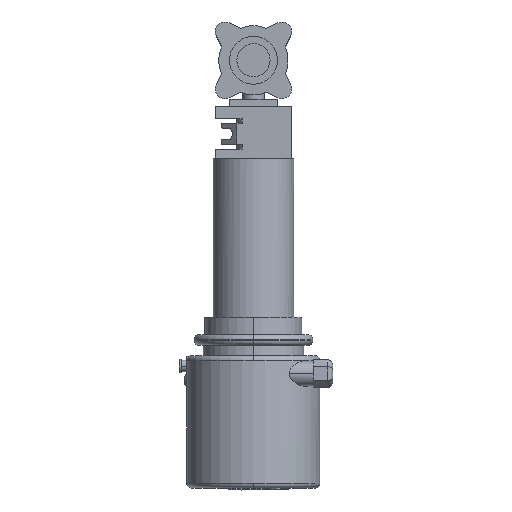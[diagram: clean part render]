
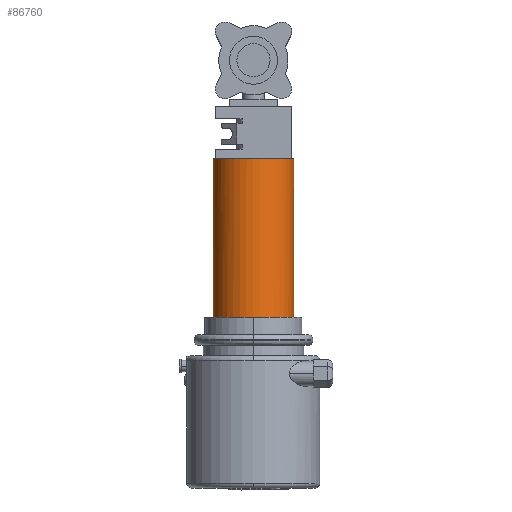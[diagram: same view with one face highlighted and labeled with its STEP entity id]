
A CAD part, top view. The second image highlights one B-rep face of the part: STEP entity #86760.
In plain terms, the highlighted cylindrical face has radius 42.5 mm (diameter 85 mm), a partial arc.
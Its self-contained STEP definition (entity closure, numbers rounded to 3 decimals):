
#100=CARTESIAN_POINT('',(-40.,0.,-14.361));
#110=VERTEX_POINT('',#100);
#160=CARTESIAN_POINT('',(0.,0.,0.));
#170=DIRECTION('',(0.,1.,0.));
#180=DIRECTION('',(-1.,0.,0.));
#190=AXIS2_PLACEMENT_3D('',#160,#170,#180);
#200=CIRCLE('',#190,42.5);
#210=CARTESIAN_POINT('',(-42.5,0.,0.));
#220=VERTEX_POINT('',#210);
#230=EDGE_CURVE('',#110,#220,#200,.T.);
#500=CARTESIAN_POINT('',(0.,167.,0.));
#510=DIRECTION('',(0.,1.,0.));
#520=DIRECTION('',(-1.,0.,0.));
#530=AXIS2_PLACEMENT_3D('',#500,#510,#520);
#540=CIRCLE('',#530,42.5);
#550=CARTESIAN_POINT('',(-42.5,167.,0.));
#560=VERTEX_POINT('',#550);
#570=CARTESIAN_POINT('',(42.5,167.,0.));
#580=VERTEX_POINT('',#570);
#610=EDGE_CURVE('',#580,#560,#540,.T.);
#710=CARTESIAN_POINT('',(-42.5,83.5,0.));
#720=DIRECTION('',(0.,-1.,0.));
#730=VECTOR('',#720,1.);
#740=LINE('',#710,#730);
#750=EDGE_CURVE('',#560,#220,#740,.T.);
#780=CARTESIAN_POINT('',(42.5,83.5,0.));
#790=DIRECTION('',(0.,-1.,0.));
#800=VECTOR('',#790,1.);
#810=LINE('',#780,#800);
#820=CARTESIAN_POINT('',(42.5,0.,0.));
#830=VERTEX_POINT('',#820);
#840=EDGE_CURVE('',#580,#830,#810,.T.);
#900=CARTESIAN_POINT('',(0.,0.,0.));
#910=DIRECTION('',(0.,-1.,0.));
#920=DIRECTION('',(-1.,0.,0.));
#930=AXIS2_PLACEMENT_3D('',#900,#910,#920);
#940=CIRCLE('',#930,42.5);
#7630=CARTESIAN_POINT('',(14.361,0.,-40.));
#7640=VERTEX_POINT('',#7630);
#7650=CARTESIAN_POINT('',(-14.361,0.,-40.));
#7660=VERTEX_POINT('',#7650);
#7670=EDGE_CURVE('',#7640,#7660,#200,.T.);
#7890=CARTESIAN_POINT('',(40.,0.,
-14.361));
#7900=VERTEX_POINT('',#7890);
#7910=EDGE_CURVE('',#830,#7900,#200,.T.);
#25430=EDGE_CURVE('',#110,#7660,#940,.T.);
#25480=EDGE_CURVE('',#7640,#7900,#940,.T.);
#86610=CARTESIAN_POINT('',(0.,83.5,0.));
#86620=DIRECTION('',(0.,-1.,0.));
#86630=DIRECTION('',(-1.,0.,0.));
#86640=AXIS2_PLACEMENT_3D('',#86610,#86620,#86630);
#86650=CYLINDRICAL_SURFACE('',#86640,42.5);
#86660=ORIENTED_EDGE('',*,*,#750,.F.);
#86670=ORIENTED_EDGE('',*,*,#230,.T.);
#86680=ORIENTED_EDGE('',*,*,#25430,.F.);
#86690=ORIENTED_EDGE('',*,*,#7670,.T.);
#86700=ORIENTED_EDGE('',*,*,#25480,.F.);
#86710=ORIENTED_EDGE('',*,*,#7910,.T.);
#86720=ORIENTED_EDGE('',*,*,#840,.T.);
#86730=ORIENTED_EDGE('',*,*,#610,.F.);
#86740=EDGE_LOOP('',(#86730,#86720,#86710,#86700,#86690,#86680,#86670,
#86660));
#86750=FACE_OUTER_BOUND('',#86740,.T.);
#86760=ADVANCED_FACE('',(#86750),#86650,.T.);
